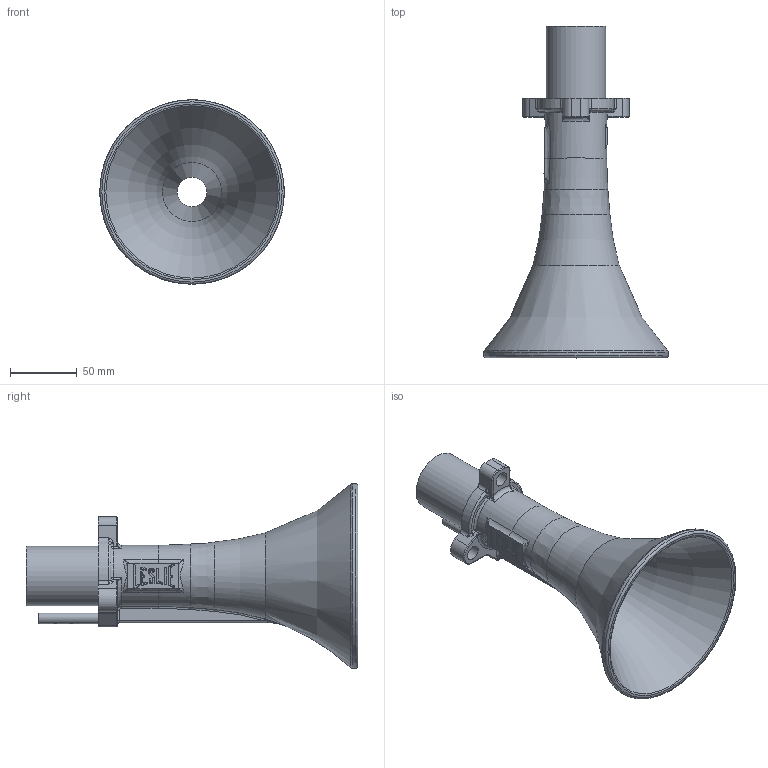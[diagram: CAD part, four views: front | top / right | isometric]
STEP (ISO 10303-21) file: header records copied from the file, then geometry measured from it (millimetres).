
FILE_DESCRIPTION(/* description */ (''),/* implementation_level */ '2;1');
FILE_NAME(/* name */ 'E:/hidden/Engineering Projects/Leslie Controls SuperTyfon/CAD/Components/26990 #48 Horn, Complete.step',/* time_stamp */ '2022-08-18T19:37:21+10:00',/* author */ (''),/* organization */ (''),/* preprocessor_version */ 'ST-DEVELOPER v19',/* originating_system */ 'Autodesk Translation Framework v11.7.0.108',/* authorisation */ '');
FILE_SCHEMA (('AUTOMOTIVE_DESIGN { 1 0 10303 214 3 1 1 }'));
Length unit declared in the file: inch
Products named in the file (3): #14132; #14133; #14134
Assembly tree (2 placements, depth 2):
  #14132
    #14133
    #14134
Bounding box: 138.11 x 248.44 x 138.11 mm (x, y, z)
Volume: 261251.1 mm3; surface area: 108739.9 mm2
Topology: 2 solids, 2 shells, 351 faces, 927 edges, 576 vertices
Faces by surface type: plane 110, bspline 101, cone 58, cylinder 52, torus 26, sphere 4
Full cylindrical faces by diameter (mm): 1.984 x1, 6.35 x1, 7.938 x1, 7.987 x1, 11.112 x3, 44.45 x1, 138.112 x1
Entity records: 14146 total; most frequent: CARTESIAN_POINT 6018, ORIENTED_EDGE 1816, DIRECTION 1444, EDGE_CURVE 908, VERTEX_POINT 576, AXIS2_PLACEMENT_3D 527, LINE 390, VECTOR 390
